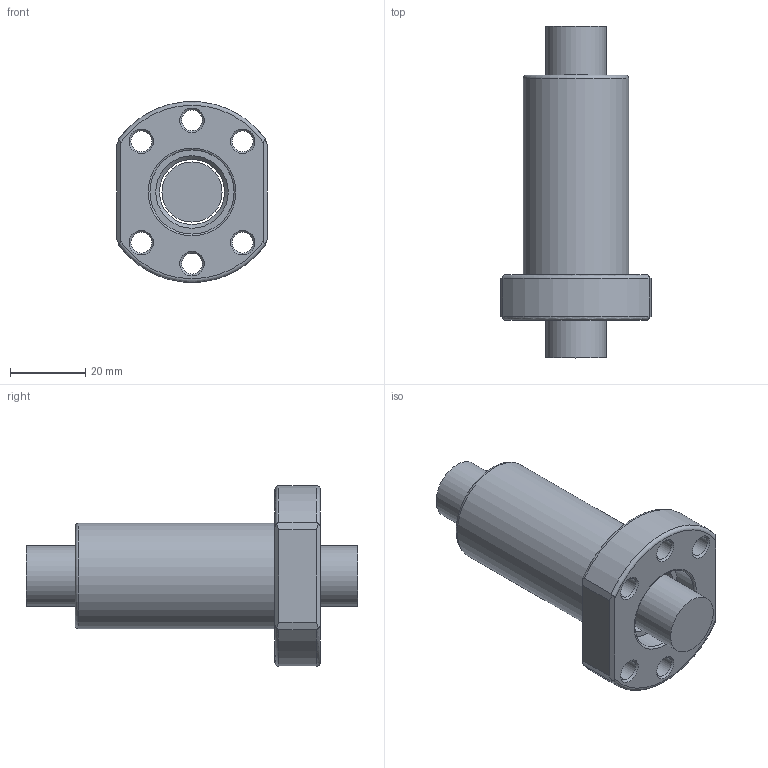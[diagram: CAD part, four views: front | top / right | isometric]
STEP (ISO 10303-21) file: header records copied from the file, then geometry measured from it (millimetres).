
FILE_DESCRIPTION(/* description */ (''),/* implementation_level */ '2;1');
FILE_NAME(/* name */ '1610T3.prt.step',/* time_stamp */ '2008-12-05T16:31:31+08:00',/* author */ (''),/* organization */ (''),/* preprocessor_version */ 'ST-DEVELOPER v11',/* originating_system */ 'SIEMENS UGS NX 6.0',/* authorisation */ '');
FILE_SCHEMA (('AUTOMOTIVE_DESIGN { 1 0 10303 214 1 1 1 1 }'));
Length unit declared in the file: millimetre
Products named in the file (1): 1610T3
Bounding box: 40 x 88 x 47.92 mm (x, y, z)
Volume: 51053.1 mm3; surface area: 18459.5 mm2
Topology: 2 solids, 2 shells, 51 faces, 118 edges, 74 vertices
Faces by surface type: plane 17, cone 14, cylinder 13, torus 7
Full cylindrical faces by diameter (mm): 5.5 x6, 15.95 x1, 17.2 x1, 22.3 x2, 28 x1
Entity records: 1546 total; most frequent: CARTESIAN_POINT 450, DIRECTION 222, ORIENTED_EDGE 174, AXIS2_PLACEMENT_3D 99, EDGE_LOOP 96, EDGE_CURVE 87, FACE_BOUND 78, VERTEX_POINT 71
